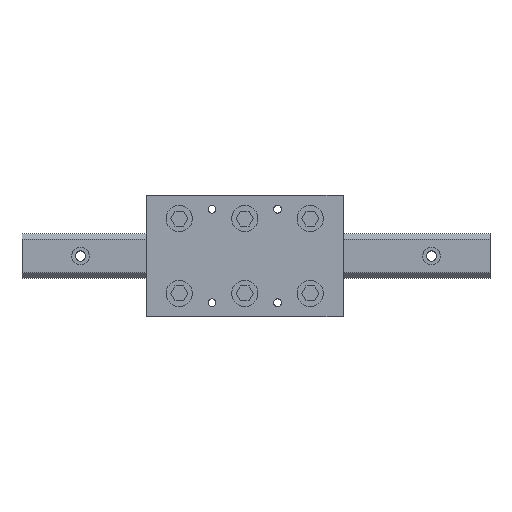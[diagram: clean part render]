
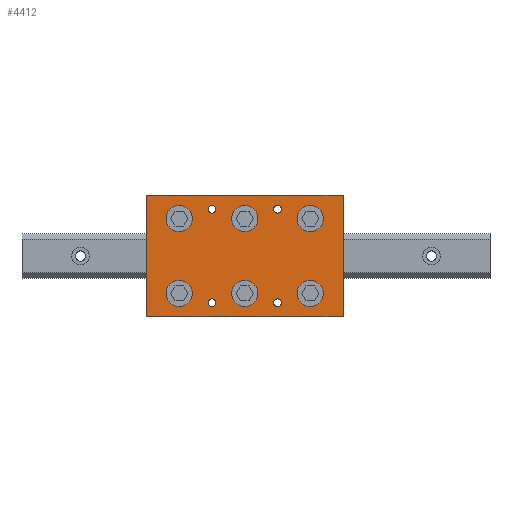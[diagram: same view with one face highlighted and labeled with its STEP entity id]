
A CAD part, top view. The second image highlights one B-rep face of the part: STEP entity #4412.
In plain terms, the highlighted planar face has unit normal (0, 0, 1).
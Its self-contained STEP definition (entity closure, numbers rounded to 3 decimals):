
#3809=CARTESIAN_POINT('',(103.566,25.0,25.0));
#3810=VERTEX_POINT('',#3809);
#3811=CARTESIAN_POINT('',(101.499,25.0,25.0));
#3812=DIRECTION('',(0.0,0.0,-1.0));
#3813=DIRECTION('',(1.0,0.0,0.0));
#3814=AXIS2_PLACEMENT_3D('',#3811,#3812,#3813);
#3815=CIRCLE('',#3814,2.067);
#3816=EDGE_CURVE('',#3810,#3810,#3815,.T.);
#3837=CARTESIAN_POINT('',(138.566,25.,25.0));
#3838=VERTEX_POINT('',#3837);
#3839=CARTESIAN_POINT('',(136.499,25.,25.0));
#3840=DIRECTION('',(0.0,0.0,-1.0));
#3841=DIRECTION('',(1.0,0.0,0.0));
#3842=AXIS2_PLACEMENT_3D('',#3839,#3840,#3841);
#3843=CIRCLE('',#3842,2.067);
#3844=EDGE_CURVE('',#3838,#3838,#3843,.T.);
#3886=CARTESIAN_POINT('',(103.566,-25.0,25.0));
#3887=VERTEX_POINT('',#3886);
#3888=CARTESIAN_POINT('',(101.499,-25.0,25.0));
#3889=DIRECTION('',(0.0,0.0,-1.0));
#3890=DIRECTION('',(1.0,0.0,0.0));
#3891=AXIS2_PLACEMENT_3D('',#3888,#3889,#3890);
#3892=CIRCLE('',#3891,2.067);
#3893=EDGE_CURVE('',#3887,#3887,#3892,.T.);
#3935=CARTESIAN_POINT('',(138.566,-25.,25.0));
#3936=VERTEX_POINT('',#3935);
#3937=CARTESIAN_POINT('',(136.499,-25.,25.0));
#3938=DIRECTION('',(0.0,0.0,-1.0));
#3939=DIRECTION('',(1.0,0.0,0.0));
#3940=AXIS2_PLACEMENT_3D('',#3937,#3938,#3939);
#3941=CIRCLE('',#3940,2.067);
#3942=EDGE_CURVE('',#3936,#3936,#3941,.T.);
#3998=CARTESIAN_POINT('',(160.999,20.,25.0));
#3999=VERTEX_POINT('',#3998);
#4000=CARTESIAN_POINT('',(153.999,20.,25.0));
#4001=DIRECTION('',(0.0,0.0,-1.0));
#4002=DIRECTION('',(1.0,0.0,0.0));
#4003=AXIS2_PLACEMENT_3D('',#4000,#4001,#4002);
#4004=CIRCLE('',#4003,7.);
#4005=EDGE_CURVE('',#3999,#3999,#4004,.T.);
#4039=CARTESIAN_POINT('',(160.999,-20.,25.0));
#4040=VERTEX_POINT('',#4039);
#4041=CARTESIAN_POINT('',(153.999,-20.,25.0));
#4042=DIRECTION('',(0.0,0.0,-1.0));
#4043=DIRECTION('',(1.0,0.0,0.0));
#4044=AXIS2_PLACEMENT_3D('',#4041,#4042,#4043);
#4045=CIRCLE('',#4044,7.);
#4046=EDGE_CURVE('',#4040,#4040,#4045,.T.);
#4130=CARTESIAN_POINT('',(125.999,20.,25.0));
#4131=VERTEX_POINT('',#4130);
#4132=CARTESIAN_POINT('',(118.999,20.,25.0));
#4133=DIRECTION('',(0.0,0.0,-1.0));
#4134=DIRECTION('',(1.0,0.0,0.0));
#4135=AXIS2_PLACEMENT_3D('',#4132,#4133,#4134);
#4136=CIRCLE('',#4135,7.);
#4137=EDGE_CURVE('',#4131,#4131,#4136,.T.);
#4171=CARTESIAN_POINT('',(125.999,-20.,25.0));
#4172=VERTEX_POINT('',#4171);
#4173=CARTESIAN_POINT('',(118.999,-20.,25.0));
#4174=DIRECTION('',(0.0,0.0,-1.0));
#4175=DIRECTION('',(1.0,0.0,0.0));
#4176=AXIS2_PLACEMENT_3D('',#4173,#4174,#4175);
#4177=CIRCLE('',#4176,7.);
#4178=EDGE_CURVE('',#4172,#4172,#4177,.T.);
#4262=CARTESIAN_POINT('',(90.999,20.,25.0));
#4263=VERTEX_POINT('',#4262);
#4264=CARTESIAN_POINT('',(83.999,20.,25.0));
#4265=DIRECTION('',(0.0,0.0,-1.0));
#4266=DIRECTION('',(1.0,0.0,0.0));
#4267=AXIS2_PLACEMENT_3D('',#4264,#4265,#4266);
#4268=CIRCLE('',#4267,7.);
#4269=EDGE_CURVE('',#4263,#4263,#4268,.T.);
#4328=CARTESIAN_POINT('',(90.999,-20.,25.0));
#4329=VERTEX_POINT('',#4328);
#4330=CARTESIAN_POINT('',(83.999,-20.,25.0));
#4331=DIRECTION('',(0.0,0.0,-1.0));
#4332=DIRECTION('',(1.0,0.0,0.0));
#4333=AXIS2_PLACEMENT_3D('',#4330,#4331,#4332);
#4334=CIRCLE('',#4333,7.);
#4335=EDGE_CURVE('',#4329,#4329,#4334,.T.);
#4343=CARTESIAN_POINT('',(66.499,-32.5,25.0));
#4344=DIRECTION('',(0.0,0.0,1.0));
#4345=DIRECTION('',(1.0,0.0,0.0));
#4346=AXIS2_PLACEMENT_3D('',#4343,#4344,#4345);
#4347=PLANE('',#4346);
#4348=CARTESIAN_POINT('',(171.499,-32.5,25.0));
#4349=VERTEX_POINT('',#4348);
#4350=CARTESIAN_POINT('',(171.499,32.5,25.0));
#4351=VERTEX_POINT('',#4350);
#4352=CARTESIAN_POINT('',(171.499,-32.5,25.0));
#4353=DIRECTION('',(0.0,1.0,0.0));
#4354=VECTOR('',#4353,65.0);
#4355=LINE('',#4352,#4354);
#4356=EDGE_CURVE('',#4349,#4351,#4355,.T.);
#4357=ORIENTED_EDGE('',*,*,#4356,.T.);
#4358=CARTESIAN_POINT('',(66.499,32.5,25.0));
#4359=VERTEX_POINT('',#4358);
#4360=CARTESIAN_POINT('',(66.499,32.5,25.0));
#4361=DIRECTION('',(1.0,0.0,0.0));
#4362=VECTOR('',#4361,105.0);
#4363=LINE('',#4360,#4362);
#4364=EDGE_CURVE('',#4359,#4351,#4363,.T.);
#4365=ORIENTED_EDGE('',*,*,#4364,.F.);
#4366=CARTESIAN_POINT('',(66.499,-32.5,25.0));
#4367=VERTEX_POINT('',#4366);
#4368=CARTESIAN_POINT('',(66.499,32.5,25.0));
#4369=DIRECTION('',(0.0,-1.0,0.0));
#4370=VECTOR('',#4369,65.0);
#4371=LINE('',#4368,#4370);
#4372=EDGE_CURVE('',#4359,#4367,#4371,.T.);
#4373=ORIENTED_EDGE('',*,*,#4372,.T.);
#4374=CARTESIAN_POINT('',(66.499,-32.5,25.0));
#4375=DIRECTION('',(1.0,0.0,0.0));
#4376=VECTOR('',#4375,105.0);
#4377=LINE('',#4374,#4376);
#4378=EDGE_CURVE('',#4367,#4349,#4377,.T.);
#4379=ORIENTED_EDGE('',*,*,#4378,.T.);
#4380=EDGE_LOOP('',(#4357,#4365,#4373,#4379));
#4381=FACE_OUTER_BOUND('',#4380,.T.);
#4382=ORIENTED_EDGE('',*,*,#3816,.T.);
#4383=EDGE_LOOP('',(#4382));
#4384=FACE_BOUND('',#4383,.T.);
#4385=ORIENTED_EDGE('',*,*,#3844,.T.);
#4386=EDGE_LOOP('',(#4385));
#4387=FACE_BOUND('',#4386,.T.);
#4388=ORIENTED_EDGE('',*,*,#3893,.T.);
#4389=EDGE_LOOP('',(#4388));
#4390=FACE_BOUND('',#4389,.T.);
#4391=ORIENTED_EDGE('',*,*,#3942,.T.);
#4392=EDGE_LOOP('',(#4391));
#4393=FACE_BOUND('',#4392,.T.);
#4394=ORIENTED_EDGE('',*,*,#4005,.T.);
#4395=EDGE_LOOP('',(#4394));
#4396=FACE_BOUND('',#4395,.T.);
#4397=ORIENTED_EDGE('',*,*,#4046,.T.);
#4398=EDGE_LOOP('',(#4397));
#4399=FACE_BOUND('',#4398,.T.);
#4400=ORIENTED_EDGE('',*,*,#4137,.T.);
#4401=EDGE_LOOP('',(#4400));
#4402=FACE_BOUND('',#4401,.T.);
#4403=ORIENTED_EDGE('',*,*,#4178,.T.);
#4404=EDGE_LOOP('',(#4403));
#4405=FACE_BOUND('',#4404,.T.);
#4406=ORIENTED_EDGE('',*,*,#4269,.T.);
#4407=EDGE_LOOP('',(#4406));
#4408=FACE_BOUND('',#4407,.T.);
#4409=ORIENTED_EDGE('',*,*,#4335,.T.);
#4410=EDGE_LOOP('',(#4409));
#4411=FACE_BOUND('',#4410,.T.);
#4412=ADVANCED_FACE('',(#4381,#4384,#4387,#4390,#4393,#4396,#4399,#4402,#4405,#4408,#4411),#4347,.T.);
